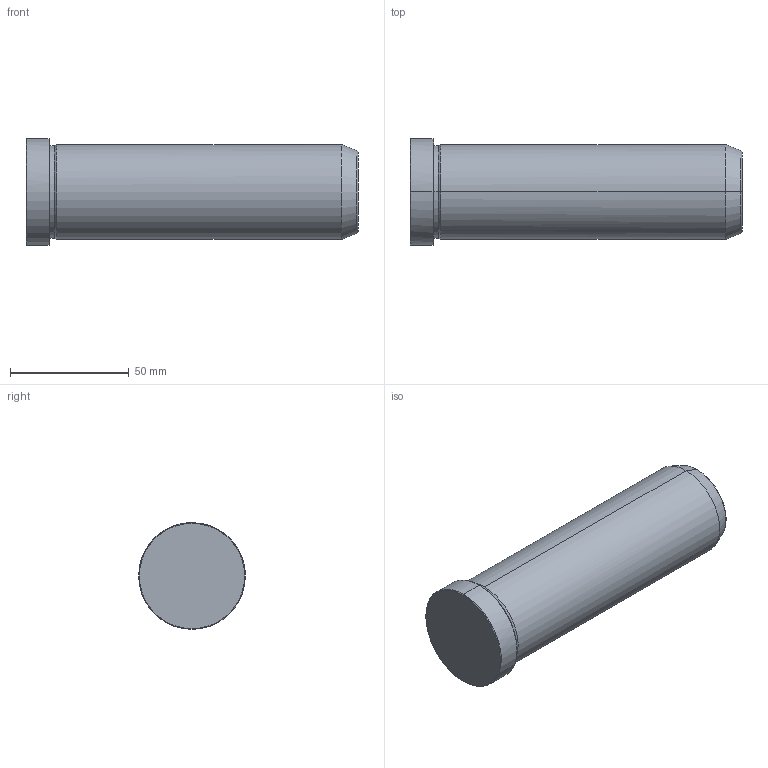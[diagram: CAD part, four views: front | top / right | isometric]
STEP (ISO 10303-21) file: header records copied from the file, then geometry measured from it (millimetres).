
FILE_DESCRIPTION(('CATIA V5 STEP Exchange'),'2;1');
FILE_NAME('C:\Users\Utente\Desktop\IO LAVORO\3D X SITO CF\X SITO\PLASTICA\549\549-40X140.stp','2021-12-18T08:16:57+00:00',('none'),('none'),'CATIA Version 5 Release 20 GA (IN-10)','CATIA V5 STEP AP203','none');
FILE_SCHEMA(('CONFIG_CONTROL_DESIGN'));
Length unit declared in the file: millimetre
Products named in the file (1): 549-40X140
Bounding box: 140 x 45 x 45 mm (x, y, z)
Volume: 177909.4 mm3; surface area: 20606 mm2
Topology: 1 solids, 1 shells, 19 faces, 56 edges, 40 vertices
Faces by surface type: cone 8, cylinder 6, plane 3, torus 2
Entity records: 736 total; most frequent: CARTESIAN_POINT 192, ORIENTED_EDGE 112, DIRECTION 86, EDGE_CURVE 56, AXIS2_PLACEMENT_3D 54, VERTEX_POINT 40, CIRCLE 34, EDGE_LOOP 20
